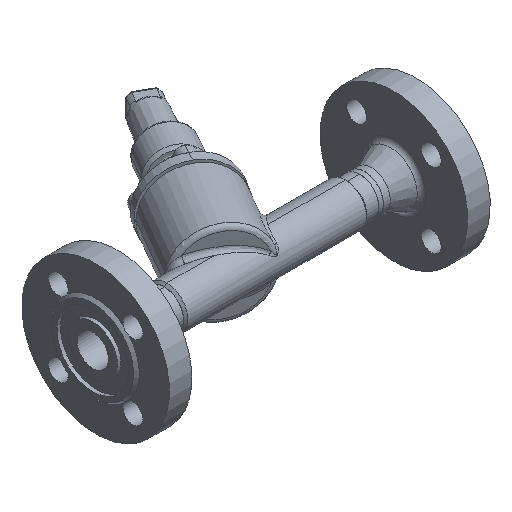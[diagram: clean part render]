
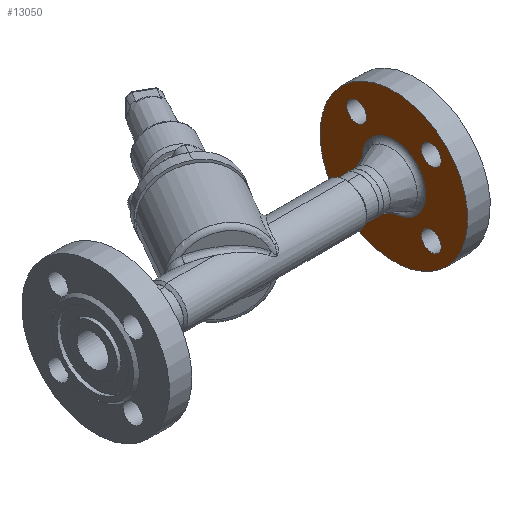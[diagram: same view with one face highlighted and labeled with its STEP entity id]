
A CAD part, isometric view. The second image highlights one B-rep face of the part: STEP entity #13050.
In plain terms, the highlighted planar face has unit normal (-1, 0, 0) as drawn and (0, 1, 0) by its records, which use the part's own axes.
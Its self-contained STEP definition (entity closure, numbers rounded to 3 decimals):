
#16409 = CARTESIAN_POINT ( 'NONE',  ( -7., 18., -37.5 ) ) ;
#16412 = CARTESIAN_POINT ( 'NONE',  ( 30.5, 18., 0. ) ) ;
#16576 = CIRCLE ( 'NONE', #16577, 7. ) ;
#16577 = AXIS2_PLACEMENT_3D ( 'NONE', #16578, #16579, #16599 ) ;
#16578 = CARTESIAN_POINT ( 'NONE',  ( 0., 18., -37.5 ) ) ;
#16579 = DIRECTION ( 'NONE',  ( 0., 1., 0. ) ) ;
#16599 = DIRECTION ( 'NONE',  ( 0., 0., 1. ) ) ;
#16643 = CIRCLE ( 'NONE', #16644, 7. ) ;
#16644 = AXIS2_PLACEMENT_3D ( 'NONE', #16645, #16646, #16647 ) ;
#16645 = CARTESIAN_POINT ( 'NONE',  ( 37.5, 18., 0. ) ) ;
#16646 = DIRECTION ( 'NONE',  ( 0., 1., 0. ) ) ;
#16647 = DIRECTION ( 'NONE',  ( -1., 0., 0. ) ) ;
#462 = EDGE_CURVE ( 'NONE', #1506, #20305, #12409, .T. ) ;
#17048 = CARTESIAN_POINT ( 'NONE',  ( -30.5, 18., 0. ) ) ;
#827 = ORIENTED_EDGE ( 'NONE', *, *, #462, .F. ) ;
#1298 = EDGE_LOOP ( 'NONE', ( #827, #21805 ) ) ;
#1506 = VERTEX_POINT ( 'NONE', #1734 ) ;
#18043 = CIRCLE ( 'NONE', #18044, 7. ) ;
#18044 = AXIS2_PLACEMENT_3D ( 'NONE', #18064, #18065, #18066 ) ;
#18064 = CARTESIAN_POINT ( 'NONE',  ( 0., 18., 37.5 ) ) ;
#18065 = DIRECTION ( 'NONE',  ( 0., 1., 0. ) ) ;
#18066 = DIRECTION ( 'NONE',  ( 0., 0., -1. ) ) ;
#1714 = EDGE_CURVE ( 'NONE', #20305, #1506, #1834, .T. ) ;
#1734 = CARTESIAN_POINT ( 'NONE',  ( -44.5, 18., 0. ) ) ;
#1834 = CIRCLE ( 'NONE', #1835, 7. ) ;
#1835 = AXIS2_PLACEMENT_3D ( 'NONE', #1836, #1837, #1838 ) ;
#1836 = CARTESIAN_POINT ( 'NONE',  ( -37.5, 18., 0. ) ) ;
#1837 = DIRECTION ( 'NONE',  ( 0., 1., 0. ) ) ;
#1838 = DIRECTION ( 'NONE',  ( 1., 0., 0. ) ) ;
#1839 = CARTESIAN_POINT ( 'NONE',  ( 7., 18., 37.5 ) ) ;
#2144 = CIRCLE ( 'NONE', #2145, 7. ) ;
#2145 = AXIS2_PLACEMENT_3D ( 'NONE', #2146, #2148, #2149 ) ;
#2146 = CARTESIAN_POINT ( 'NONE',  ( 0., 18., -37.5 ) ) ;
#2148 = DIRECTION ( 'NONE',  ( 0., 1., 0. ) ) ;
#2149 = DIRECTION ( 'NONE',  ( 0., 0., 1. ) ) ;
#2362 = CARTESIAN_POINT ( 'NONE',  ( 52.5, 18., 0. ) ) ;
#18834 = EDGE_CURVE ( 'NONE', #12272, #21751, #13174, .T. ) ;
#2707 = CARTESIAN_POINT ( 'NONE',  ( -22.685, 18., 0. ) ) ;
#2751 = CIRCLE ( 'NONE', #2752, 22.685 ) ;
#2752 = AXIS2_PLACEMENT_3D ( 'NONE', #2753, #2754, #2755 ) ;
#2753 = CARTESIAN_POINT ( 'NONE',  ( 0., 18., 0. ) ) ;
#2754 = DIRECTION ( 'NONE',  ( 0., 1., 0. ) ) ;
#2755 = DIRECTION ( 'NONE',  ( -1., 0., 0. ) ) ;
#3051 = FACE_BOUND ( 'NONE', #12677, .T. ) ;
#3052 = FACE_BOUND ( 'NONE', #1298, .T. ) ;
#3053 = FACE_BOUND ( 'NONE', #21571, .T. ) ;
#3054 = FACE_BOUND ( 'NONE', #10035, .T. ) ;
#3055 = FACE_BOUND ( 'NONE', #8420, .T. ) ;
#3056 = FACE_OUTER_BOUND ( 'NONE', #7157, .T. ) ;
#3057 = PLANE ( 'NONE',  #3058 ) ;
#3058 = AXIS2_PLACEMENT_3D ( 'NONE', #3059, #3060, #3061 ) ;
#3059 = CARTESIAN_POINT ( 'NONE',  ( 52.5, 18., 0. ) ) ;
#3060 = DIRECTION ( 'NONE',  ( 0., -1., 0. ) ) ;
#3061 = DIRECTION ( 'NONE',  ( 1., 0., 0. ) ) ;
#3274 = CIRCLE ( 'NONE', #3275, 52.5 ) ;
#3275 = AXIS2_PLACEMENT_3D ( 'NONE', #3276, #3277, #3278 ) ;
#3276 = CARTESIAN_POINT ( 'NONE',  ( 0., 18., 0. ) ) ;
#3277 = DIRECTION ( 'NONE',  ( 0., 1., 0. ) ) ;
#3278 = DIRECTION ( 'NONE',  ( -1., 0., 0. ) ) ;
#3279 = CIRCLE ( 'NONE', #3280, 52.5 ) ;
#3280 = AXIS2_PLACEMENT_3D ( 'NONE', #3281, #3284, #3285 ) ;
#3281 = CARTESIAN_POINT ( 'NONE',  ( 0., 18., 0. ) ) ;
#3284 = DIRECTION ( 'NONE',  ( 0., 1., 0. ) ) ;
#3285 = DIRECTION ( 'NONE',  ( -1., 0., 0. ) ) ;
#3426 = EDGE_CURVE ( 'NONE', #11699, #8565, #3279, .T. ) ;
#19903 = VERTEX_POINT ( 'NONE', #16409 ) ;
#19937 = VERTEX_POINT ( 'NONE', #16412 ) ;
#20116 = EDGE_CURVE ( 'NONE', #21064, #19903, #16576, .T. ) ;
#20153 = EDGE_CURVE ( 'NONE', #21028, #19937, #16643, .T. ) ;
#20305 = VERTEX_POINT ( 'NONE', #17048 ) ;
#20536 = EDGE_CURVE ( 'NONE', #6813, #10996, #18043, .T. ) ;
#20629 = EDGE_CURVE ( 'NONE', #8565, #11699, #3274, .T. ) ;
#20904 = ORIENTED_EDGE ( 'NONE', *, *, #20536, .F. ) ;
#4608 = CARTESIAN_POINT ( 'NONE',  ( 44.5, 18., 0. ) ) ;
#4635 = CARTESIAN_POINT ( 'NONE',  ( 7., 18., -37.5 ) ) ;
#21028 = VERTEX_POINT ( 'NONE', #4608 ) ;
#4665 = CARTESIAN_POINT ( 'NONE',  ( -52.5, 18., 0. ) ) ;
#21064 = VERTEX_POINT ( 'NONE', #4635 ) ;
#21571 = EDGE_LOOP ( 'NONE', ( #20904, #10266 ) ) ;
#21751 = VERTEX_POINT ( 'NONE', #9730 ) ;
#21805 = ORIENTED_EDGE ( 'NONE', *, *, #1714, .F. ) ;
#6076 = EDGE_CURVE ( 'NONE', #10996, #6813, #12847, .T. ) ;
#6147 = ORIENTED_EDGE ( 'NONE', *, *, #3426, .T. ) ;
#6652 = ORIENTED_EDGE ( 'NONE', *, *, #20629, .T. ) ;
#6813 = VERTEX_POINT ( 'NONE', #13966 ) ;
#7157 = EDGE_LOOP ( 'NONE', ( #6652, #6147 ) ) ;
#7391 = ORIENTED_EDGE ( 'NONE', *, *, #12506, .F. ) ;
#7905 = ORIENTED_EDGE ( 'NONE', *, *, #18834, .F. ) ;
#8420 = EDGE_LOOP ( 'NONE', ( #7905, #7391 ) ) ;
#8565 = VERTEX_POINT ( 'NONE', #4665 ) ;
#8656 = ORIENTED_EDGE ( 'NONE', *, *, #20153, .F. ) ;
#9165 = EDGE_CURVE ( 'NONE', #19937, #21028, #9677, .T. ) ;
#9524 = ORIENTED_EDGE ( 'NONE', *, *, #9165, .F. ) ;
#9677 = CIRCLE ( 'NONE', #9678, 7. ) ;
#9678 = AXIS2_PLACEMENT_3D ( 'NONE', #9679, #9680, #9681 ) ;
#9679 = CARTESIAN_POINT ( 'NONE',  ( 37.5, 18., 0. ) ) ;
#9680 = DIRECTION ( 'NONE',  ( 0., 1., 0. ) ) ;
#9681 = DIRECTION ( 'NONE',  ( -1., 0., 0. ) ) ;
#9730 = CARTESIAN_POINT ( 'NONE',  ( 22.685, 18., 0. ) ) ;
#10035 = EDGE_LOOP ( 'NONE', ( #9524, #8656 ) ) ;
#10266 = ORIENTED_EDGE ( 'NONE', *, *, #6076, .F. ) ;
#10873 = ORIENTED_EDGE ( 'NONE', *, *, #20116, .F. ) ;
#10996 = VERTEX_POINT ( 'NONE', #1839 ) ;
#11387 = EDGE_CURVE ( 'NONE', #19903, #21064, #2144, .T. ) ;
#11699 = VERTEX_POINT ( 'NONE', #2362 ) ;
#11753 = ORIENTED_EDGE ( 'NONE', *, *, #11387, .F. ) ;
#12272 = VERTEX_POINT ( 'NONE', #2707 ) ;
#12409 = CIRCLE ( 'NONE', #12410, 7. ) ;
#12410 = AXIS2_PLACEMENT_3D ( 'NONE', #12411, #12412, #12413 ) ;
#12411 = CARTESIAN_POINT ( 'NONE',  ( -37.5, 18., 0. ) ) ;
#12412 = DIRECTION ( 'NONE',  ( 0., 1., 0. ) ) ;
#12413 = DIRECTION ( 'NONE',  ( 1., 0., 0. ) ) ;
#12506 = EDGE_CURVE ( 'NONE', #21751, #12272, #2751, .T. ) ;
#12677 = EDGE_LOOP ( 'NONE', ( #11753, #10873 ) ) ;
#12847 = CIRCLE ( 'NONE', #12848, 7. ) ;
#12848 = AXIS2_PLACEMENT_3D ( 'NONE', #12866, #12867, #12868 ) ;
#12866 = CARTESIAN_POINT ( 'NONE',  ( 0., 18., 37.5 ) ) ;
#12867 = DIRECTION ( 'NONE',  ( 0., 1., 0. ) ) ;
#12868 = DIRECTION ( 'NONE',  ( 0., 0., -1. ) ) ;
#13050 = ADVANCED_FACE ( 'NONE', ( #3051, #3052, #3053, #3054, #3055, #3056 ), #3057, .F. ) ;
#13174 = CIRCLE ( 'NONE', #13175, 22.685 ) ;
#13175 = AXIS2_PLACEMENT_3D ( 'NONE', #13176, #13177, #13178 ) ;
#13176 = CARTESIAN_POINT ( 'NONE',  ( 0., 18., 0. ) ) ;
#13177 = DIRECTION ( 'NONE',  ( 0., 1., 0. ) ) ;
#13178 = DIRECTION ( 'NONE',  ( -1., 0., 0. ) ) ;
#13966 = CARTESIAN_POINT ( 'NONE',  ( -7., 18., 37.5 ) ) ;
